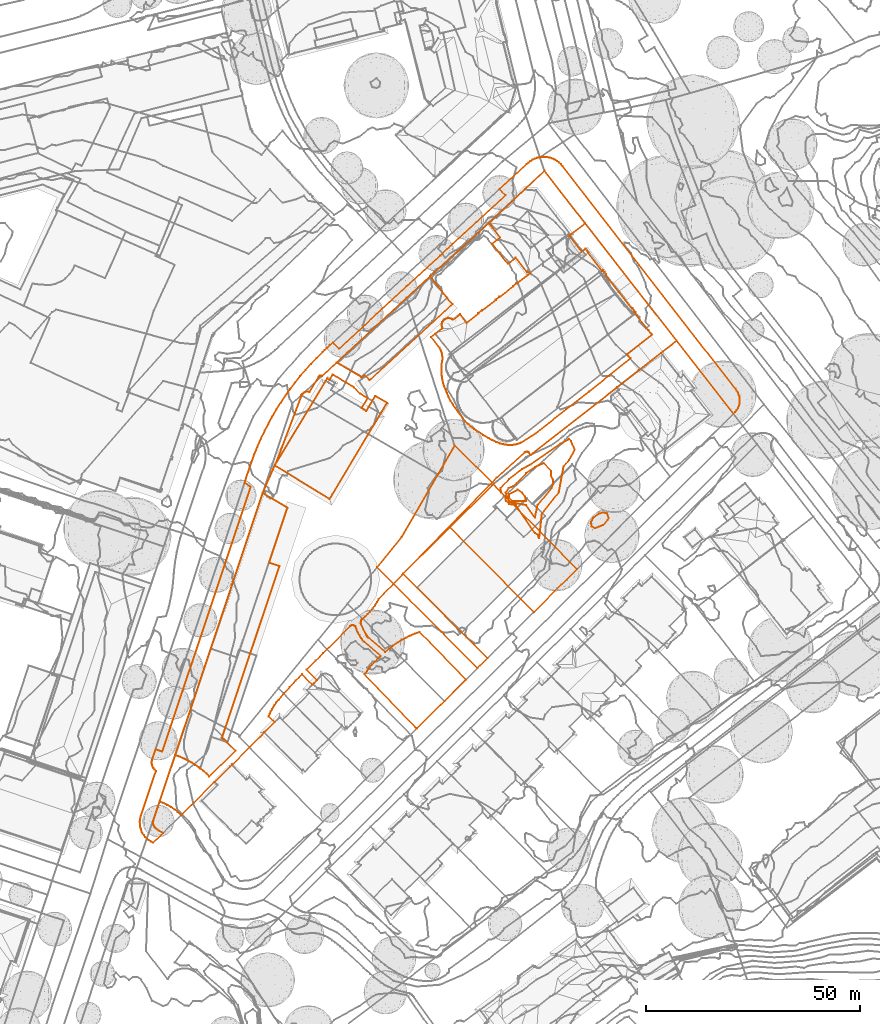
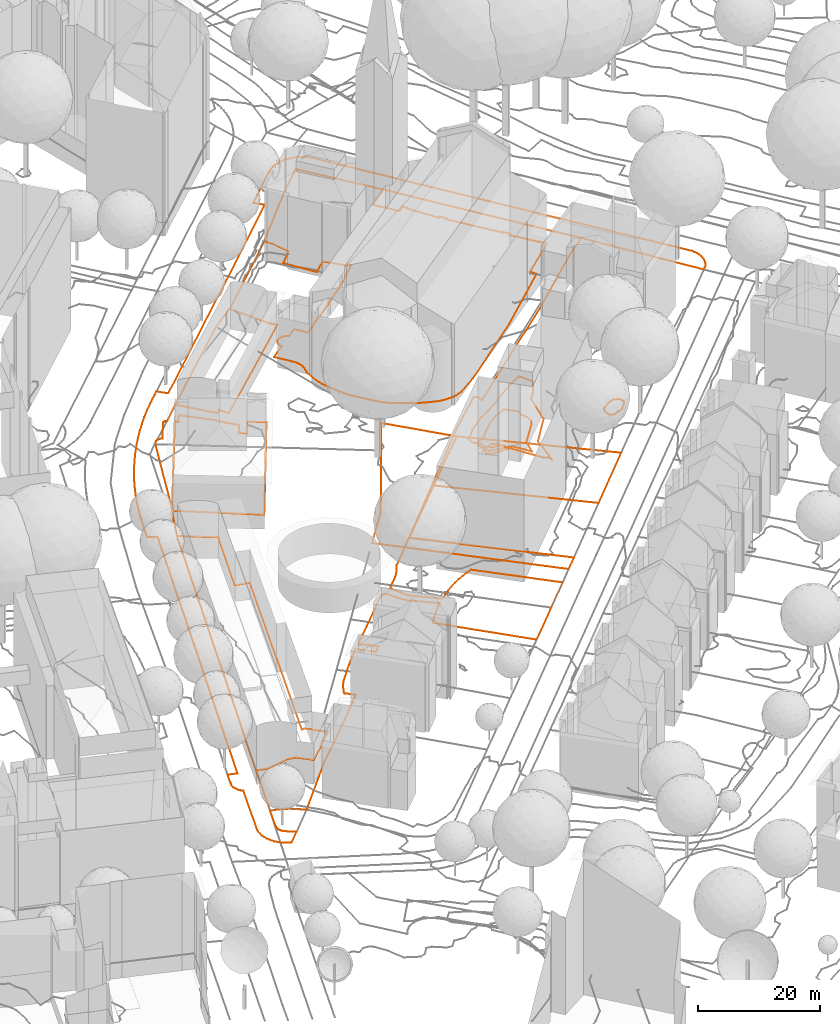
# Not in any storey, part 103 of 494: 8 proxies.
"""IFC2X3 model written with IfcOpenShell, lengths in metres."""

import ifcopenshell
import ifcopenshell.guid

model = None  # the IFC model being written
_history = None  # IfcOwnerHistory: only IFC2X3 demands one
_inside = {}  # id of a spatial element -> (the spatial element, [elements in it])
_under = {}  # id of a project, library or spatial element -> (it, [spatial elements below it])
_declared = {}  # id of a project -> (the project, [libraries it declares])
_typed = {}  # id of a type object -> (the type object, [elements of that type])
_made_of = {}  # id of a material, layer set ... -> (it, [elements and type objects made of it])


def new_model(schema):
    """Start an empty IFC model of exactly this schema.

    Asked for "IFC4X3", IfcOpenShell would pick the latest addendum, in which some entities
    have other attributes; the version numbers below select the first issue.
    IFC2X3 requires an IfcOwnerHistory on every rooted entity: one is made here for all.
    """
    global model, _history
    if schema == "IFC4X3":
        model = ifcopenshell.file(schema_version=(4, 3, 0, 0))
    else:
        model = ifcopenshell.file(schema=schema)
    _inside.clear()
    _under.clear()
    _declared.clear()
    _typed.clear()
    _made_of.clear()
    _history = None
    if model.schema == "IFC2X3":
        org = make("IfcOrganization", Name="unknown")
        user = make(
            "IfcPersonAndOrganization",
            ThePerson=make("IfcPerson", FamilyName="unknown"),
            TheOrganization=org,
        )
        app = make(
            "IfcApplication",
            ApplicationDeveloper=org,
            Version="unknown",
            ApplicationFullName="unknown",
            ApplicationIdentifier="unknown",
        )
        _history = make(
            "IfcOwnerHistory",
            OwningUser=user,
            OwningApplication=app,
            ChangeAction="ADDED",
            CreationDate=0,
        )
    return model


def make(cls, **values):
    """One entity of the class cls with the attributes given. An attribute that is None is left unset."""
    return model.create_entity(
        cls, **{name: value for name, value in values.items() if value is not None}
    )


def entity(cls, *values):
    """Any entity or typed value of the class cls, its attributes in the order of the schema. None: left unset."""
    e = model.create_entity(cls)
    for i, value in enumerate(values):
        if value is not None:
            e[i] = value
    return e


def rooted(cls, **values):
    """An entity with a GlobalId (a new one), such as an element, a storey or a relation."""
    return make(cls, GlobalId=ifcopenshell.guid.new(), OwnerHistory=_history, **values)


def si_unit(unit_type, name, prefix=None):
    """IfcSIUnit, for example si_unit("LENGTHUNIT", "METRE", prefix="MILLI")."""
    return make("IfcSIUnit", UnitType=unit_type, Prefix=prefix, Name=name)


def assignment(units):
    """IfcUnitAssignment: the units of a project."""
    return None if units is None else make("IfcUnitAssignment", Units=units)


def point(xyz):
    """IfcCartesianPoint."""
    return None if xyz is None else make("IfcCartesianPoint", Coordinates=xyz)


def direction(xyz):
    """IfcDirection."""
    return None if xyz is None else make("IfcDirection", DirectionRatios=xyz)


def frame(location, z_axis=None, x_axis=None):
    """IfcAxis2Placement3D, a coordinate frame: its origin and axes. An axis left out is left unset."""
    return make(
        "IfcAxis2Placement3D",
        Location=point(location),
        Axis=direction(z_axis),
        RefDirection=direction(x_axis),
    )


def origin_with_axes():
    """The frame at (0, 0, 0) with the z axis (0, 0, 1) and the x axis (1, 0, 0) written out."""
    return frame((0.0, 0.0, 0.0), z_axis=(0.0, 0.0, 1.0), x_axis=(1.0, 0.0, 0.0))


def place(relative_to, where):
    """IfcLocalPlacement: puts the frame where relative to a parent placement (None: the world)."""
    return make(
        "IfcLocalPlacement", PlacementRelTo=relative_to, RelativePlacement=where
    )


def context(
    kind, dimensions, precision=None, world=None, true_north=None, identifier=None
):
    """IfcGeometricRepresentationContext, for example the 3D "Model" context."""
    return make(
        "IfcGeometricRepresentationContext",
        ContextIdentifier=identifier,
        ContextType=kind,
        CoordinateSpaceDimension=dimensions,
        Precision=precision,
        WorldCoordinateSystem=world,
        TrueNorth=true_north,
    )


def subcontext(parent, identifier, kind, view, scale=None):
    """IfcGeometricRepresentationSubContext, for example "Body" below "Model"."""
    return make(
        "IfcGeometricRepresentationSubContext",
        ContextIdentifier=identifier,
        ContextType=kind,
        ParentContext=parent,
        TargetScale=scale,
        TargetView=view,
    )


def project(units=None, contexts=None):
    """IfcProject with its units and contexts."""
    return rooted(
        "IfcProject",
        Name="project",
        RepresentationContexts=contexts,
        UnitsInContext=assignment(units),
    )


def shape(context_of_items, identifier, shape_type, items):
    """IfcShapeRepresentation: the items that make up one representation, for example the "Body"."""
    return make(
        "IfcShapeRepresentation",
        ContextOfItems=context_of_items,
        RepresentationIdentifier=identifier,
        RepresentationType=shape_type,
        Items=items,
    )


def made_of(thing, what):
    """Note that an element or type object is made of a material, layer set ...; save() writes the relation."""
    if what is not None:
        _made_of.setdefault(what.id(), (what, []))[1].append(thing)
    return thing


def element(
    cls,
    number,
    at=None,
    inside=None,
    cuts=None,
    type_object=None,
    material=None,
    context=None,
    identifier="Body",
    shape_type=None,
    held_by="IfcProductDefinitionShape",
    body=None,
    shapes=None,
    **own,
):
    """One element of the class cls, such as IfcWall. Its Tag is "e" and its number.

    at: its placement. inside: the storey or other place that contains it. cuts: it is an
    opening in that element (IfcRelVoidsElement). A single representation is given by context,
    identifier, shape_type and body (its items); several are given by shapes. held_by: the class
    of the entity that holds the representations. save() writes the other relations.
    """
    e = rooted(cls, Tag="e%d" % number, ObjectPlacement=at, **own)
    if body is not None:
        shapes = [shape(context, identifier, shape_type, body)]
    if shapes is not None:
        e.Representation = make(held_by, Representations=shapes)
    if inside is not None:
        _inside.setdefault(inside.id(), (inside, []))[1].append(e)
    if cuts is not None:
        rooted(
            "IfcRelVoidsElement", RelatingBuildingElement=cuts, RelatedOpeningElement=e
        )
    if type_object is not None:
        _typed.setdefault(type_object.id(), (type_object, []))[1].append(e)
    return made_of(e, material)


def aggregate(whole, parts):
    """IfcRelAggregates: a whole, such as a stair, and the parts it consists of."""
    return rooted("IfcRelAggregates", RelatingObject=whole, RelatedObjects=parts)


def save(model, path):
    """Write the relations noted so far, then the file.

    IfcRelAggregates (storeys below a building ...), IfcRelContainedInSpatialStructure (elements
    in a storey), IfcRelDefinesByType, IfcRelAssociatesMaterial and IfcRelDeclares: one each for
    every whole, place, type object, material and project.
    """
    for whole, parts in _under.values():
        aggregate(whole, parts)
    for where, things in _inside.values():
        rooted(
            "IfcRelContainedInSpatialStructure",
            RelatedElements=things,
            RelatingStructure=where,
        )
    for kind, things in _typed.values():
        rooted("IfcRelDefinesByType", RelatedObjects=things, RelatingType=kind)
    for what, things in _made_of.values():
        rooted("IfcRelAssociatesMaterial", RelatedObjects=things, RelatingMaterial=what)
    for by, libraries in _declared.values():
        rooted("IfcRelDeclares", RelatingContext=by, RelatedDefinitions=libraries)
    model.write(path)


model = new_model("IFC2X3")

# Units and contexts
model_context = context("Model", 3, precision=1e-05, world=origin_with_axes())
body_context = subcontext(model_context, "Body", "Model", "MODEL_VIEW")
ifc_project = project(units=[si_unit("AREAUNIT", "SQUARE_METRE"), si_unit("LENGTHUNIT", "METRE")], contexts=[model_context])

# Proxies
proxy_1_placement = place(None, frame((68.8427320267, 122.7727160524, 530.417360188), z_axis=(0.0, 0.0, 1.0), x_axis=(1.0, 0.0, 0.0)))
element("IfcBuildingElementProxy", 1, at=proxy_1_placement, Name="Roads Outline 4", ObjectType="NOTDEFINED", context=body_context, shape_type="GeometricCurveSet", body=[
    entity("IfcGeometricCurveSet", [entity("IfcPolyline", [entity("IfcCartesianPoint", [0.0, 0.0, 0.0]), entity("IfcCartesianPoint", [3.6230000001, 10.8430000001, 0.2039594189]), entity("IfcCartesianPoint", [3.6409999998, 10.8970000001, 0.2052957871]), entity("IfcCartesianPoint", [4.6869999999, 10.52, 0.2156433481]), entity("IfcCartesianPoint", [5.7110000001, 10.085, 0.3930215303]), entity("IfcCartesianPoint", [6.7080000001, 9.594, 0.9503190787]), entity("IfcCartesianPoint", [7.54, 9.128, 1.6115277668]), entity("IfcCartesianPoint", [8.3480000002, 8.6230000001, 2.1841172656]), entity("IfcCartesianPoint", [9.1320000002, 8.0800000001, 2.4201392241]), entity("IfcCartesianPoint", [9.3360000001, 7.9310000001, 2.4922078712]), entity("IfcCartesianPoint", [9.537, 7.7780000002, 2.4996788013]), entity("IfcCartesianPoint", [10.2710000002, 7.182, 2.4838294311]), entity("IfcCartesianPoint", [10.9739999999, 6.551, 2.4586473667]), entity("IfcCartesianPoint", [11.6469999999, 5.8870000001, 2.4271440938]), entity("IfcCartesianPoint", [17.7540000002, 11.9400000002, 2.2321040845]), entity("IfcCartesianPoint", [15.7760000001, 13.9680000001, 2.257514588]), entity("IfcCartesianPoint", [15.0260000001, 14.686, 2.2015958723]), entity("IfcCartesianPoint", [14.5690000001, 14.838, 2.1222932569]), entity("IfcCartesianPoint", [28.0430000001, 55.121, 2.2357021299]), entity("IfcCartesianPoint", [25.6439999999, 55.9230000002, 2.1241388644]), entity("IfcCartesianPoint", [29.943, 68.7750000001, 2.3648000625]), entity("IfcCartesianPoint", [24.1299999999, 72.199, 2.545686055]), entity("IfcCartesianPoint", [26.9130000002, 78.6980000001, 2.6867683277]), entity("IfcCartesianPoint", [39.7829999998, 70.8090000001, 2.1779449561]), entity("IfcCartesianPoint", [53.2119999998, 93.334, 2.3095263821]), entity("IfcCartesianPoint", [50.446, 94.952, 2.3938800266]), entity("IfcCartesianPoint", [48.3790000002, 91.4570000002, 2.8495788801]), entity("IfcCartesianPoint", [47.2859999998, 92.1000000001, 3.0311546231]), entity("IfcCartesianPoint", [48.6770000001, 94.459, 2.6329417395]), entity("IfcCartesianPoint", [46.895, 95.5120000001, 3.0506827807]), entity("IfcCartesianPoint", [45.5329999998, 96.969, 3.1933591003]), entity("IfcCartesianPoint", [40.4730000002, 99.9440000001, 4.1274934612]), entity("IfcCartesianPoint", [39.753, 98.72, 3.8634524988]), entity("IfcCartesianPoint", [39.2050000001, 99.031, 3.921604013]), entity("IfcCartesianPoint", [27.21, 79.162, 2.7407848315]), entity("IfcCartesianPoint", [33.2710000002, 95.108, 3.8324555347]), entity("IfcCartesianPoint", [33.398, 95.351, 3.8531373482]), entity("IfcCartesianPoint", [33.5699999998, 95.5650000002, 3.8629943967]), entity("IfcCartesianPoint", [33.7790000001, 95.7420000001, 3.864903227]), entity("IfcCartesianPoint", [34.0189999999, 95.875, 3.8592970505]), entity("IfcCartesianPoint", [34.2749999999, 95.9580000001, 3.856189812]), entity("IfcCartesianPoint", [34.5419999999, 95.9920000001, 3.8508530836]), entity("IfcCartesianPoint", [34.8110000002, 95.9750000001, 3.8398137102]), entity("IfcCartesianPoint", [35.071, 95.9070000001, 3.8291581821]), entity("IfcCartesianPoint", [37.1890000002, 99.398, 3.9831124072]), entity("IfcCartesianPoint", [37.304, 99.54, 3.9983426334]), entity("IfcCartesianPoint", [37.4539999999, 99.6440000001, 4.0146529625]), entity("IfcCartesianPoint", [37.6260000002, 99.7040000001, 4.0263147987]), entity("IfcCartesianPoint", [37.784, 99.716, 4.0310413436]), entity("IfcCartesianPoint", [37.9399999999, 99.689, 4.0297807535]), entity("IfcCartesianPoint", [38.0860000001, 99.6260000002, 4.0223666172]), entity("IfcCartesianPoint", [41.4330000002, 102.767, 4.1671462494]), entity("IfcCartesianPoint", [47.3500000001, 99.267, 2.5165878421]), entity("IfcCartesianPoint", [48.0270000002, 99.8900000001, 2.5204880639]), entity("IfcCartesianPoint", [49.179, 98.6400000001, 2.2856863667]), entity("IfcCartesianPoint", [68.531, 116.486, 2.2752429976]), entity("IfcCartesianPoint", [67.3790000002, 117.737, 2.3855761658]), entity("IfcCartesianPoint", [67.4300000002, 117.784, 2.3880908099]), entity("IfcCartesianPoint", [63.372, 122.9470000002, 3.3224099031]), entity("IfcCartesianPoint", [77.0490000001, 135.3540000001, 4.5182508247]), entity("IfcCartesianPoint", [77.1490000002, 135.449, 4.5851800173]), entity("IfcCartesianPoint", [77.4440000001, 135.1360000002, 4.5414929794]), entity("IfcCartesianPoint", [77.3680000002, 135.0650000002, 4.4832711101]), entity("IfcCartesianPoint", [77.969, 134.2930000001, 4.4078105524]), entity("IfcCartesianPoint", [79.73, 132.03, 3.644511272]), entity("IfcCartesianPoint", [77.8709999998, 130.5830000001, 2.8083666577]), entity("IfcCartesianPoint", [81.5270000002, 125.8860000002, 2.5582329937]), entity("IfcCartesianPoint", [83.3810000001, 127.3290000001, 3.2013033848]), entity("IfcCartesianPoint", [86.0469999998, 123.9040000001, 3.4864772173]), entity("IfcCartesianPoint", [86.3020000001, 124.1030000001, 3.5609178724]), entity("IfcCartesianPoint", [86.6690000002, 123.6310000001, 3.5303301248]), entity("IfcCartesianPoint", [83.622, 121.2620000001, 2.5717359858]), entity("IfcCartesianPoint", [83.5610000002, 121.341, 2.5662295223]), entity("IfcCartesianPoint", [82.7000000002, 120.6700000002, 2.3848896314]), entity("IfcCartesianPoint", [82.7609999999, 120.591, 2.3909373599]), entity("IfcCartesianPoint", [79.5640000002, 118.105, 2.3032011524]), entity("IfcCartesianPoint", [79.503, 118.1840000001, 2.297669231]), entity("IfcCartesianPoint", [78.642, 117.514, 2.2574503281]), entity("IfcCartesianPoint", [78.7030000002, 117.4350000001, 2.2634815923]), entity("IfcCartesianPoint", [75.5070000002, 114.95, 2.229922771]), entity("IfcCartesianPoint", [75.446, 115.0290000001, 2.2251744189]), entity("IfcCartesianPoint", [74.577, 114.3530000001, 2.220631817]), entity("IfcCartesianPoint", [74.6379999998, 114.274, 2.2252215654]), entity("IfcCartesianPoint", [71.9100000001, 112.051, 2.2516929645]), entity("IfcCartesianPoint", [70.3399999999, 114.061, 2.2408872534]), entity("IfcCartesianPoint", [68.6970000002, 112.7790000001, 2.2519545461]), entity("IfcCartesianPoint", [68.4279999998, 112.9650000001, 2.247821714]), entity("IfcCartesianPoint", [68.128, 113.0920000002, 2.2459529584]), entity("IfcCartesianPoint", [67.8080000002, 113.1570000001, 2.2447124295]), entity("IfcCartesianPoint", [67.4819999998, 113.156, 2.2437820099]), entity("IfcCartesianPoint", [67.162, 113.0900000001, 2.2433793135]), entity("IfcCartesianPoint", [66.8629999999, 112.9610000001, 2.2432723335]), entity("IfcCartesianPoint", [66.5950000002, 112.774, 2.2468598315]), entity("IfcCartesianPoint", [66.3530000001, 112.514, 2.2542314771]), entity("IfcCartesianPoint", [66.1740000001, 112.2080000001, 2.2626755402]), entity("IfcCartesianPoint", [66.0660000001, 111.8700000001, 2.2717951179]), entity("IfcCartesianPoint", [66.0350000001, 111.5160000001, 2.2834568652]), entity("IfcCartesianPoint", [66.0819999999, 111.1640000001, 2.2954068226]), entity("IfcCartesianPoint", [66.2050000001, 110.831, 2.3054307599]), entity("IfcCartesianPoint", [64.5780000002, 109.564, 2.3365796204]), entity("IfcCartesianPoint", [63.5759999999, 108.7820000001, 2.2705134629]), entity("IfcCartesianPoint", [65.5060000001, 106.3050000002, 2.2633563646]), entity("IfcCartesianPoint", [65.747, 105.868, 2.293709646]), entity("IfcCartesianPoint", [65.9410000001, 105.4070000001, 2.3399620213]), entity("IfcCartesianPoint", [66.085, 104.929, 2.396206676]), entity("IfcCartesianPoint", [66.1779999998, 104.4380000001, 2.4118021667]), entity("IfcCartesianPoint", [66.21, 103.9380000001, 2.41026646]), entity("IfcCartesianPoint", [66.193, 103.4370000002, 2.3909792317]), entity("IfcCartesianPoint", [66.128, 102.9400000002, 2.3653557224]), entity("IfcCartesianPoint", [66.0150000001, 102.452, 2.3438910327]), entity("IfcCartesianPoint", [65.9930000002, 101.4480000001, 2.3590387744]), entity("IfcCartesianPoint", [66.0120000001, 100.443, 2.4160613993]), entity("IfcCartesianPoint", [66.0720000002, 99.4400000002, 2.4510820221]), entity("IfcCartesianPoint", [66.2069999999, 98.696, 2.4547194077]), entity("IfcCartesianPoint", [66.3900000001, 97.9610000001, 2.4801277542]), entity("IfcCartesianPoint", [66.6189999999, 97.24, 2.5244054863]), entity("IfcCartesianPoint", [66.8930000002, 96.5350000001, 2.5513765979]), entity("IfcCartesianPoint", [67.2659999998, 95.602, 2.5516251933]), entity("IfcCartesianPoint", [67.6880000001, 94.6900000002, 2.5361533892]), entity("IfcCartesianPoint", [68.1570000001, 93.801, 2.5297555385]), entity("IfcCartesianPoint", [68.6719999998, 92.9400000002, 2.5340728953]), entity("IfcCartesianPoint", [69.2310000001, 92.108, 2.5551606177]), entity("IfcCartesianPoint", [69.8339999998, 91.3060000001, 2.5855787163]), entity("IfcCartesianPoint", [70.906, 89.8870000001, 2.6185096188]), entity("IfcCartesianPoint", [72.0359999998, 88.513, 2.6384057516]), entity("IfcCartesianPoint", [72.781, 87.8430000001, 2.6445316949]), entity("IfcCartesianPoint", [73.5729999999, 87.23, 2.6875213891]), entity("IfcCartesianPoint", [74.4079999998, 86.6770000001, 2.7115894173]), entity("IfcCartesianPoint", [75.6639999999, 85.844, 2.7589244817]), entity("IfcCartesianPoint", [76.9589999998, 85.074, 2.8046147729]), entity("IfcCartesianPoint", [77.8530000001, 84.6230000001, 2.8415480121]), entity("IfcCartesianPoint", [78.7659999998, 84.2150000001, 2.8855007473]), entity("IfcCartesianPoint", [79.6979999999, 83.8500000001, 2.8922088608]), entity("IfcCartesianPoint", [80.2770000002, 83.6770000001, 2.9178944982]), entity("IfcCartesianPoint", [80.8680000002, 83.5560000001, 2.9342630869]), entity("IfcCartesianPoint", [81.4679999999, 83.487, 2.9498695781]), entity("IfcCartesianPoint", [82.0720000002, 83.4720000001, 2.9691295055]), entity("IfcCartesianPoint", [82.6749999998, 83.51, 2.9805465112]), entity("IfcCartesianPoint", [83.3369999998, 83.6140000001, 2.9830544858]), entity("IfcCartesianPoint", [83.9849999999, 83.7820000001, 2.9996352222]), entity("IfcCartesianPoint", [84.6140000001, 84.013, 3.0181797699]), entity("IfcCartesianPoint", [87.9819999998, 86.193, 3.1025944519]), entity("IfcCartesianPoint", [100.5100000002, 95.9880000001, 3.7077755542]), entity("IfcCartesianPoint", [110.2209999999, 103.773, 5.6024013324]), entity("IfcCartesianPoint", [109.4750000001, 104.7750000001, 5.6416496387]), entity("IfcCartesianPoint", [115.2850000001, 109.314, 6.4988125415]), entity("IfcCartesianPoint", [114.4500000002, 110.388, 6.544154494]), entity("IfcCartesianPoint", [114.3760000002, 110.331, 6.5473943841]), entity("IfcCartesianPoint", [111.1869999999, 114.4310000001, 6.5719991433]), entity("IfcCartesianPoint", [111.4240000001, 114.615, 6.6007817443]), entity("IfcCartesianPoint", [110.7080000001, 115.523, 6.6308025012]), entity("IfcCartesianPoint", [110.551, 115.4010000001, 6.6155188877]), entity("IfcCartesianPoint", [104.3790000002, 123.338, 6.6868838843]), entity("IfcCartesianPoint", [104.5290000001, 123.3490000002, 6.7035882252]), entity("IfcCartesianPoint", [104.5449999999, 123.4670000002, 6.7230542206]), entity("IfcCartesianPoint", [103.8289999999, 124.3810000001, 6.7518379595]), entity("IfcCartesianPoint", [103.5920000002, 124.1970000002, 6.7005723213]), entity("IfcCartesianPoint", [100.2799999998, 128.456, 7.0402415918]), entity("IfcCartesianPoint", [100.3650000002, 128.5220000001, 7.0596980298]), entity("IfcCartesianPoint", [99.6570000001, 129.4370000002, 7.1439388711]), entity("IfcCartesianPoint", [98.807, 128.7750000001, 6.9414479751]), entity("IfcCartesianPoint", [95.9270000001, 132.487, 6.935142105]), entity("IfcCartesianPoint", [96.2319999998, 132.7240000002, 7.026119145]), entity("IfcCartesianPoint", [99.6320000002, 135.375, 6.9090434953]), entity("IfcCartesianPoint", [121.0359999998, 107.885, 6.4399454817]), entity("IfcCartesianPoint", [117.3990000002, 105.0430000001, 6.4536077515]), entity("IfcCartesianPoint", [112.264, 101.03, 5.4675513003]), entity("IfcCartesianPoint", [107.1239999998, 97.014, 4.2830827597]), entity("IfcCartesianPoint", [86.861, 81.1780000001, 2.2865070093]), entity("IfcCartesianPoint", [86.4360000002, 81.723, 2.6604406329]), entity("IfcCartesianPoint", [86.2719999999, 81.8230000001, 2.7312770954]), entity("IfcCartesianPoint", [86.0890000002, 81.8830000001, 2.7560219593]), entity("IfcCartesianPoint", [85.898, 81.9000000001, 2.7588563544]), entity("IfcCartesianPoint", [85.716, 81.875, 2.747341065]), entity("IfcCartesianPoint", [85.5440000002, 81.811, 2.7269223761]), entity("IfcCartesianPoint", [85.389, 81.7120000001, 2.7032367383]), entity("IfcCartesianPoint", [78.9219999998, 75.801, 2.5473552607]), entity("IfcCartesianPoint", [57.0410000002, 53.389, 2.0974239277]), entity("IfcCartesianPoint", [51.2749999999, 47.4040000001, 2.3144745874]), entity("IfcCartesianPoint", [50.8659999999, 46.6940000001, 2.3243829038]), entity("IfcCartesianPoint", [50.3900000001, 45.9350000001, 2.3292183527]), entity("IfcCartesianPoint", [49.8659999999, 45.2080000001, 2.3404952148]), entity("IfcCartesianPoint", [49.2960000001, 44.5160000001, 2.3798920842]), entity("IfcCartesianPoint", [48.7149999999, 43.8940000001, 2.3965198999]), entity("IfcCartesianPoint", [48.0970000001, 43.3090000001, 2.3654901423]), entity("IfcCartesianPoint", [47.4449999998, 42.763, 2.3197651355]), entity("IfcCartesianPoint", [47.3250000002, 42.594, 2.3241768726]), entity("IfcCartesianPoint", [47.2239999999, 42.412, 2.3369843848]), entity("IfcCartesianPoint", [47.1400000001, 42.1970000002, 2.3529697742]), entity("IfcCartesianPoint", [47.085, 41.973, 2.3708844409]), entity("IfcCartesianPoint", [47.1009999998, 41.784, 2.3747252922]), entity("IfcCartesianPoint", [47.1570000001, 41.6030000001, 2.371261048]), entity("IfcCartesianPoint", [48.335, 39.0700000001, 2.4413075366]), entity("IfcCartesianPoint", [48.4509999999, 38.8940000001, 2.4439484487]), entity("IfcCartesianPoint", [48.5810000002, 38.7280000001, 2.4480870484]), entity("IfcCartesianPoint", [48.716, 38.5830000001, 2.4539056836]), entity("IfcCartesianPoint", [48.8599999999, 38.4470000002, 2.4614539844]), entity("IfcCartesianPoint", [52.7949999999, 35.057, 2.5409170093]), entity("IfcCartesianPoint", [53.7319999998, 35.845, 2.5822583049]), entity("IfcCartesianPoint", [54.7089999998, 36.5820000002, 2.6124928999]), entity("IfcCartesianPoint", [55.7230000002, 37.2680000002, 2.6475898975]), entity("IfcCartesianPoint", [56.7719999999, 37.899, 2.6417435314]), entity("IfcCartesianPoint", [57.764, 38.433, 2.6563880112]), entity("IfcCartesianPoint", [58.781, 38.919, 2.6772384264]), entity("IfcCartesianPoint", [59.8199999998, 39.3560000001, 2.6747089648]), entity("IfcCartesianPoint", [60.8790000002, 39.7420000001, 2.6624354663]), entity("IfcCartesianPoint", [71.747, 28.6340000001, 3.0613976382]), entity("IfcCartesianPoint", [66.6770000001, 23.595, 2.8597423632]), entity("IfcCartesianPoint", [60.287, 17.237, 2.6534765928]), entity("IfcCartesianPoint", [60.199, 17.149, 2.651679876]), entity("IfcCartesianPoint", [47.9390000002, 29.8150000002, 2.6057415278]), entity("IfcCartesianPoint", [48.517, 30.6140000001, 2.619009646]), entity("IfcCartesianPoint", [49.1269999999, 31.388, 2.5857664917]), entity("IfcCartesianPoint", [49.7689999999, 32.1360000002, 2.552026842]), entity("IfcCartesianPoint", [50.4040000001, 32.8220000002, 2.5536527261]), entity("IfcCartesianPoint", [51.0660000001, 33.483, 2.57782409]), entity("IfcCartesianPoint", [51.7540000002, 34.1170000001, 2.5845467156]), entity("IfcCartesianPoint", [47.7859999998, 37.514, 2.4543024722]), entity("IfcCartesianPoint", [47.4589999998, 37.9200000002, 2.4278066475]), entity("IfcCartesianPoint", [47.1540000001, 38.3430000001, 2.4239169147]), entity("IfcCartesianPoint", [46.764, 38.9620000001, 2.4073878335]), entity("IfcCartesianPoint", [46.4190000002, 39.6090000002, 2.3777771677]), entity("IfcCartesianPoint", [46.122, 40.2780000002, 2.3462272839]), entity("IfcCartesianPoint", [45.875, 40.9670000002, 2.3160286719]), entity("IfcCartesianPoint", [45.7060000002, 41.1340000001, 2.3183877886]), entity("IfcCartesianPoint", [45.497, 41.247, 2.3194080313]), entity("IfcCartesianPoint", [45.2650000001, 41.2990000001, 2.3208881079]), entity("IfcCartesianPoint", [45.0270000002, 41.2820000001, 2.3259777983]), entity("IfcCartesianPoint", [44.804, 41.2, 2.3354696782]), entity("IfcCartesianPoint", [44.6120000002, 41.0590000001, 2.3490075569]), entity("IfcCartesianPoint", [38.284, 34.7520000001, 2.2874193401]), entity("IfcCartesianPoint", [36.5320000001, 32.996, 2.3612556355]), entity("IfcCartesianPoint", [34.452, 30.929, 2.41503838]), entity("IfcCartesianPoint", [36.8850000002, 28.487, 2.6246972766]), entity("IfcCartesianPoint", [35.7590000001, 27.372, 2.5799582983]), entity("IfcCartesianPoint", [33.3560000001, 29.8500000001, 2.4179093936]), entity("IfcCartesianPoint", [31.855, 28.327, 2.4015153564]), entity("IfcCartesianPoint", [30.4789999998, 26.8630000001, 2.3967225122]), entity("IfcCartesianPoint", [29.1379999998, 25.3670000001, 2.3809344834]), entity("IfcCartesianPoint", [27.8330000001, 23.8390000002, 2.3390858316]), entity("IfcCartesianPoint", [27.2880000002, 23.1730000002, 2.3216317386]), entity("IfcCartesianPoint", [26.7919999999, 22.469, 2.3372706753]), entity("IfcCartesianPoint", [26.3480000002, 21.7320000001, 2.3742560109]), entity("IfcCartesianPoint", [26.0449999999, 21.149, 2.3440580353]), entity("IfcCartesianPoint", [25.7749999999, 20.551, 2.325213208]), entity("IfcCartesianPoint", [25.5380000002, 19.9380000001, 2.3799337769]), entity("IfcCartesianPoint", [26.898, 18.594, 2.414168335]), entity("IfcCartesianPoint", [24.5240000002, 16.243, 2.333287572]), entity("IfcCartesianPoint", [23.665, 15.294, 2.3367632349]), entity("IfcCartesianPoint", [16.9330000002, 8.632, 2.2408077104]), entity("IfcCartesianPoint", [12.906, 4.6470000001, 2.3568487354]), entity("IfcCartesianPoint", [5.0430000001, -3.1369999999, 0.292537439]), entity("IfcCartesianPoint", [4.9959999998, -3.0889999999, 0.2913109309]), entity("IfcCartesianPoint", [4.2710000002, -2.4179999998, 0.2481925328]), entity("IfcCartesianPoint", [3.497, -1.8059999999, 0.2353568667]), entity("IfcCartesianPoint", [2.6770000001, -1.254, 0.2001960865]), entity("IfcCartesianPoint", [1.818, -0.7679999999, 0.1222256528]), entity("IfcCartesianPoint", [0.9240000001, -0.3489999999, 0.0630957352]), entity("IfcCartesianPoint", [0.0, 0.0, 0.0])])]),
])
proxy_2_placement = place(None, frame((64.2277320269, 118.1297160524, 530.28836828), z_axis=(0.0, 0.0, 1.0), x_axis=(1.0, 0.0, 0.0)))
element("IfcBuildingElementProxy", 2, at=proxy_2_placement, Name="Roads Outline 6", ObjectType="NOTDEFINED", context=body_context, shape_type="GeometricCurveSet", body=[
    entity("IfcGeometricCurveSet", [entity("IfcPolyline", [entity("IfcCartesianPoint", [0.173, 1.1769999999, 0.0042277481]), entity("IfcCartesianPoint", [3.7479999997, 11.8640000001, 0.0503527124]), entity("IfcCartesianPoint", [3.4479999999, 12.1440000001, 0.0393051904]), entity("IfcCartesianPoint", [3.1969999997, 12.47, 0.0323376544]), entity("IfcCartesianPoint", [3.0019999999, 12.831, 0.0445833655]), entity("IfcCartesianPoint", [2.8679999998, 13.219, 0.0682204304]), entity("IfcCartesianPoint", [2.7999999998, 13.605, 0.0901844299]), entity("IfcCartesianPoint", [2.7919999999, 13.997, 0.1060636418]), entity("IfcCartesianPoint", [2.8439999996, 14.3859999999, 0.1234430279]), entity("IfcCartesianPoint", [2.9559999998, 14.7620000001, 0.1538646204]), entity("IfcCartesianPoint", [3.6629999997, 16.8810000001, 0.2228606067]), entity("IfcCartesianPoint", [5.247, 16.3640000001, 0.2417633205]), entity("IfcCartesianPoint", [25.9669999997, 78.3389999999, 2.5677302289]), entity("IfcCartesianPoint", [24.4729999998, 79.227, 2.4997032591]), entity("IfcCartesianPoint", [25.4169999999, 82.0549999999, 2.6888387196]), entity("IfcCartesianPoint", [26.0579999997, 83.9709999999, 2.7931418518]), entity("IfcCartesianPoint", [26.7569999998, 85.8670000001, 2.8703435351]), entity("IfcCartesianPoint", [27.5129999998, 87.74, 2.9801013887]), entity("IfcCartesianPoint", [28.3269999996, 89.5889999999, 3.1022763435]), entity("IfcCartesianPoint", [29.196, 91.4129999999, 3.2104745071]), entity("IfcCartesianPoint", [30.0779999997, 93.1270000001, 3.3061413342]), entity("IfcCartesianPoint", [31.0089999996, 94.8149999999, 3.4184568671]), entity("IfcCartesianPoint", [31.9879999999, 96.476, 3.5112335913]), entity("IfcCartesianPoint", [33.014, 98.108, 3.6156854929]), entity("IfcCartesianPoint", [34.0719999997, 99.6880000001, 3.693663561]), entity("IfcCartesianPoint", [35.1749999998, 101.237, 3.7871379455]), entity("IfcCartesianPoint", [36.321, 102.754, 3.8625529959]), entity("IfcCartesianPoint", [37.5099999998, 104.2379999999, 3.9467925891]), entity("IfcCartesianPoint", [38.7509999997, 105.6950000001, 4.0274813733]), entity("IfcCartesianPoint", [40.0349999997, 107.1159999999, 4.1188305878]), entity("IfcCartesianPoint", [41.3589999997, 108.4979999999, 4.183967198]), entity("IfcCartesianPoint", [42.7239999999, 109.841, 4.2597486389]), entity("IfcCartesianPoint", [43.2049999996, 110.304, 4.2890613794]), entity("IfcCartesianPoint", [43.6969999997, 110.754, 4.306302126]), entity("IfcCartesianPoint", [44.4499999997, 111.4509999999, 4.3595263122]), entity("IfcCartesianPoint", [45.2059999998, 112.1429999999, 4.3689066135]), entity("IfcCartesianPoint", [46.5889999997, 110.645, 4.4353122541]), entity("IfcCartesianPoint", [62.4709999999, 125.2860000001, 5.2806220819]), entity("IfcCartesianPoint", [70.2169999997, 132.416, 5.6839279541]), entity("IfcCartesianPoint", [85.5569999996, 146.5630000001, 6.6177543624]), entity("IfcCartesianPoint", [84.2089999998, 148.0560000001, 6.5547705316]), entity("IfcCartesianPoint", [90.5069999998, 153.8540000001, 6.8658187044]), entity("IfcCartesianPoint", [90.9449999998, 154.2560000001, 6.8705773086]), entity("IfcCartesianPoint", [91.4219999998, 154.6089999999, 6.896677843]), entity("IfcCartesianPoint", [91.9339999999, 154.909, 6.9331649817]), entity("IfcCartesianPoint", [92.4749999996, 155.1540000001, 6.9580935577]), entity("IfcCartesianPoint", [93.0389999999, 155.3400000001, 6.9781860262]), entity("IfcCartesianPoint", [93.6199999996, 155.4650000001, 7.0005438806]), entity("IfcCartesianPoint", [94.2199999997, 155.5290000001, 7.0163778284]), entity("IfcCartesianPoint", [94.8239999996, 155.527, 7.0214423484]), entity("IfcCartesianPoint", [95.4189999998, 155.4609999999, 7.045519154]), entity("IfcCartesianPoint", [96.0039999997, 155.3330000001, 7.0675414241]), entity("IfcCartesianPoint", [96.5719999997, 155.1429999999, 7.06838431]), entity("IfcCartesianPoint", [97.1159999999, 154.8929999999, 7.0680739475]), entity("IfcCartesianPoint", [97.6309999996, 154.5870000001, 7.0588042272]), entity("IfcCartesianPoint", [98.1099999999, 154.227, 7.051430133]), entity("IfcCartesianPoint", [98.548, 153.8189999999, 7.0383859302]), entity("IfcCartesianPoint", [98.9399999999, 153.3659999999, 7.0200014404]), entity("IfcCartesianPoint", [139.3769999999, 101.2860000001, 6.1996970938]), entity("IfcCartesianPoint", [139.7019999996, 100.8740000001, 6.1931573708]), entity("IfcCartesianPoint", [139.9709999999, 100.4239999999, 6.1631598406]), entity("IfcCartesianPoint", [140.1779999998, 99.942, 6.1389504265]), entity("IfcCartesianPoint", [140.321, 99.4369999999, 6.1298692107]), entity("IfcCartesianPoint", [140.3959999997, 98.9180000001, 6.1227894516]), entity("IfcCartesianPoint", [140.4029999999, 98.3929999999, 6.1013148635]), entity("IfcCartesianPoint", [140.335, 97.838, 6.0539924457]), entity("IfcCartesianPoint", [140.1899999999, 97.298, 6.0154147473]), entity("IfcCartesianPoint", [139.9709999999, 96.7830000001, 5.9884527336]), entity("IfcCartesianPoint", [139.6829999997, 96.304, 5.9849334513]), entity("IfcCartesianPoint", [139.3299999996, 95.8689999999, 5.9872886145]), entity("IfcCartesianPoint", [138.9209999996, 95.4879999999, 5.9804427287]), entity("IfcCartesianPoint", [125.6509999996, 112.5279999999, 6.5689373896]), entity("IfcCartesianPoint", [104.247, 140.0179999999, 7.0380354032]), entity("IfcCartesianPoint", [94.6709999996, 152.3189999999, 7.0534851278]), entity("IfcCartesianPoint", [90.1599999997, 148.013, 6.9128710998]), entity("IfcCartesianPoint", [81.764, 140.0919999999, 4.7141719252]), entity("IfcCartesianPoint", [81.6639999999, 139.997, 4.6472427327]), entity("IfcCartesianPoint", [67.9869999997, 127.5900000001, 3.4514018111]), entity("IfcCartesianPoint", [67.9499999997, 127.638, 3.5307255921]), entity("IfcCartesianPoint", [67.9309999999, 127.621, 3.5365298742]), entity("IfcCartesianPoint", [62.4619999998, 122.571, 4.869550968]), entity("IfcCartesianPoint", [46.0969999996, 107.4550000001, 4.2976952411]), entity("IfcCartesianPoint", [46.048, 107.4099999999, 4.2961381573]), entity("IfcCartesianPoint", [42.7009999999, 104.2690000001, 4.1513585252]), entity("IfcCartesianPoint", [42.5549999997, 104.3319999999, 4.1587726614]), entity("IfcCartesianPoint", [42.3989999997, 104.3589999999, 4.1600332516]), entity("IfcCartesianPoint", [42.2409999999, 104.3470000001, 4.1553067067]), entity("IfcCartesianPoint", [42.0689999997, 104.287, 4.1436448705]), entity("IfcCartesianPoint", [41.9189999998, 104.183, 4.1273345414]), entity("IfcCartesianPoint", [41.804, 104.041, 4.1121043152]), entity("IfcCartesianPoint", [39.6859999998, 100.55, 3.9581500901]), entity("IfcCartesianPoint", [39.426, 100.618, 3.9688056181]), entity("IfcCartesianPoint", [39.1569999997, 100.635, 3.9798449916]), entity("IfcCartesianPoint", [38.8899999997, 100.601, 3.98518172]), entity("IfcCartesianPoint", [38.6339999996, 100.5179999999, 3.9882889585]), entity("IfcCartesianPoint", [38.3939999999, 100.385, 3.993895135]), entity("IfcCartesianPoint", [38.1849999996, 100.2080000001, 3.9919863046]), entity("IfcCartesianPoint", [38.0129999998, 99.9939999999, 3.9821292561]), entity("IfcCartesianPoint", [37.8859999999, 99.7509999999, 3.9614474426]), entity("IfcCartesianPoint", [31.8249999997, 83.8049999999, 2.8697767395]), entity("IfcCartesianPoint", [31.5279999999, 83.341, 2.8157602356]), entity("IfcCartesianPoint", [28.7449999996, 76.8419999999, 2.6746779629]), entity("IfcCartesianPoint", [11.8309999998, 26.2350000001, 0.7721775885]), entity("IfcCartesianPoint", [8.2559999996, 15.54, 0.3342876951]), entity("IfcCartesianPoint", [8.2379999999, 15.486, 0.3329513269]), entity("IfcCartesianPoint", [4.6149999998, 4.6429999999, 0.1289919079]), entity("IfcCartesianPoint", [3.2239999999, 0.4410000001, 0.1030233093]), entity("IfcCartesianPoint", [3.1359999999, 0.132, 0.0853487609]), entity("IfcCartesianPoint", [3.1059999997, -0.1880000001, 0.0746146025]), entity("IfcCartesianPoint", [3.1349999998, -0.5079999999, 0.071950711]), entity("IfcCartesianPoint", [3.227, -0.831, 0.0868883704]), entity("IfcCartesianPoint", [3.3779999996, -1.1300000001, 0.1041397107]), entity("IfcCartesianPoint", [3.5829999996, -1.395, 0.1222025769]), entity("IfcCartesianPoint", [3.8279999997, -1.675, 0.1424340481]), entity("IfcCartesianPoint", [4.1089999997, -1.919, 0.1563469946]), entity("IfcCartesianPoint", [4.4199999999, -2.1229999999, 0.161495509]), entity("IfcCartesianPoint", [5.3949999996, -2.7050000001, 0.189369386]), entity("IfcCartesianPoint", [3.1239999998, -4.9480000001, 0.1305799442]), entity("IfcCartesianPoint", [2.5919999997, -4.6769999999, 0.1058649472]), entity("IfcCartesianPoint", [2.0939999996, -4.348, 0.090820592]), entity("IfcCartesianPoint", [1.6359999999, -3.9650000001, 0.0649624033]), entity("IfcCartesianPoint", [1.284, -3.598, 0.0450009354]), entity("IfcCartesianPoint", [0.9689999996, -3.199, 0.0312997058]), entity("IfcCartesianPoint", [0.6939999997, -2.7709999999, 0.0198291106]), entity("IfcCartesianPoint", [0.4619999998, -2.3189999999, 0.0102037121]), entity("IfcCartesianPoint", [0.2479999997, -1.763, -0.0018014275]), entity("IfcCartesianPoint", [0.0979999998, -1.186, -0.0101554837]), entity("IfcCartesianPoint", [0.0149999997, -0.5959999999, -0.0106908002]), entity("IfcCartesianPoint", [0.0, 0.0, 0.0]), entity("IfcCartesianPoint", [0.0529999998, 0.5929999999, 0.0133017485]), entity("IfcCartesianPoint", [0.173, 1.1769999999, 0.0042277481])])]),
])
proxy_3_placement = place(None, frame((119.8047320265, 177.7207160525, 532.6434110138), z_axis=(0.0, 0.0, 1.0), x_axis=(1.0, 0.0, 0.0)))
element("IfcBuildingElementProxy", 3, at=proxy_3_placement, Name="Cadastre 94", ObjectType="NOTDEFINED", context=body_context, shape_type="GeometricCurveSet", body=[
    entity("IfcGeometricCurveSet", [entity("IfcPolyline", [entity("IfcCartesianPoint", [0.0, 0.0, 0.0]), entity("IfcCartesianPoint", [5.6900000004, 6.9920000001, -0.0134697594]), entity("IfcCartesianPoint", [14.1700000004, 21.5959999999, 0.4113025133]), entity("IfcCartesianPoint", [18.0980000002, 28.3570000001, 0.4221156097]), entity("IfcCartesianPoint", [27.1680000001, 19.4069999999, 0.001807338]), entity("IfcCartesianPoint", [16.9980000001, 9.294, -0.1042067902]), entity("IfcCartesianPoint", [6.0790000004, -1.5590000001, -0.1286268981]), entity("IfcCartesianPoint", [25.764, -21.3700000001, 1.0510448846]), entity("IfcCartesianPoint", [23.4140000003, -23.7, 0.9938049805]), entity("IfcCartesianPoint", [0.0, 0.0, 0.0])])]),
])
proxy_4_placement = place(None, frame((136.8027320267, 187.0147160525, 532.5392042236), z_axis=(0.0, 0.0, 1.0), x_axis=(1.0, 0.0, 0.0)))
element("IfcBuildingElementProxy", 4, at=proxy_4_placement, Name="Cadastre 107", ObjectType="NOTDEFINED", context=body_context, shape_type="GeometricCurveSet", body=[
    entity("IfcGeometricCurveSet", [entity("IfcPolyline", [entity("IfcCartesianPoint", [0.0, 0.0, 0.0]), entity("IfcCartesianPoint", [10.1699999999, 10.1129999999, 0.1060141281]), entity("IfcCartesianPoint", [29.7349999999, -9.807, 2.0874155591]), entity("IfcCartesianPoint", [19.676, -19.8100000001, 1.6469561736]), entity("IfcCartesianPoint", [0.0, 0.0, 0.0])])]),
])
proxy_5_placement = place(None, frame((150.6777320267, 193.8453669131, 530.0), z_axis=(0.0, 0.0, 1.0), x_axis=(1.0, 0.0, 0.0)))
element("IfcBuildingElementProxy", 5, at=proxy_5_placement, Name="Contour Line 530.0 m", ObjectType="NOTDEFINED", context=body_context, shape_type="GeometricCurveSet", body=[
    entity("IfcGeometricCurveSet", [entity("IfcPolyline", [entity("IfcCartesianPoint", [4.0, -0.6944812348, 0.0]), entity("IfcCartesianPoint", [3.74428997, 0.3253491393, 0.0]), entity("IfcCartesianPoint", [3.0, 1.2529481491, 0.0]), entity("IfcCartesianPoint", [2.0, 1.9200924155, 0.0]), entity("IfcCartesianPoint", [0.0, 0.9116821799, 0.0]), entity("IfcCartesianPoint", [0.0, 0.0, 0.0]), entity("IfcCartesianPoint", [0.6790617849, -0.6746508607, 0.0]), entity("IfcCartesianPoint", [4.0, -0.6944812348, 0.0])])]),
])
proxy_6_placement = place(None, frame((149.8583799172, 195.1707160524, 531.0), z_axis=(0.0, 0.0, 1.0), x_axis=(1.0, 0.0, 0.0)))
element("IfcBuildingElementProxy", 6, at=proxy_6_placement, Name="Contour Line 531.0 m", ObjectType="NOTDEFINED", context=body_context, shape_type="GeometricCurveSet", body=[
    entity("IfcGeometricCurveSet", [entity("IfcPolyline", [entity("IfcCartesianPoint", [6.8193521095, -5.8771532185, 0.0]), entity("IfcCartesianPoint", [7.4455846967, -3.0, 0.0]), entity("IfcCartesianPoint", [10.7254545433, 1.0, 0.0]), entity("IfcCartesianPoint", [11.1064837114, 2.0, 0.0]), entity("IfcCartesianPoint", [11.0263437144, 3.0, 0.0]), entity("IfcCartesianPoint", [10.5672724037, 4.0, 0.0]), entity("IfcCartesianPoint", [10.6531117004, 5.0, 0.0]), entity("IfcCartesianPoint", [8.8193521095, 6.8207480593, 0.0]), entity("IfcCartesianPoint", [6.8193521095, 5.9049301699, 0.0]), entity("IfcCartesianPoint", [4.8193521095, 4.498323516, 0.0]), entity("IfcCartesianPoint", [1.8193521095, 1.4416243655, 0.0]), entity("IfcCartesianPoint", [0.7234173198, 1.0, 0.0]), entity("IfcCartesianPoint", [0.0, 0.0, 0.0]), entity("IfcCartesianPoint", [0.8193521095, -2.2514401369, 0.0]), entity("IfcCartesianPoint", [4.7709772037, -3.0, 0.0]), entity("IfcCartesianPoint", [6.8193521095, -5.8771532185, 0.0])])]),
])
proxy_7_placement = place(None, frame((169.8243395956, 188.1707160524, 535.0), z_axis=(0.0, 0.0, 1.0), x_axis=(1.0, 0.0, 0.0)))
element("IfcBuildingElementProxy", 7, at=proxy_7_placement, Name="Contour Line 535.0 m", ObjectType="NOTDEFINED", context=body_context, shape_type="GeometricCurveSet", body=[
    entity("IfcGeometricCurveSet", [entity("IfcPolyline", [entity("IfcCartesianPoint", [1.853392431, -1.020214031, 0.0]), entity("IfcCartesianPoint", [2.853392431, -0.6142090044, 0.0]), entity("IfcCartesianPoint", [3.853392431, 0.4908864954, 0.0]), entity("IfcCartesianPoint", [4.1555064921, 1.0, 0.0]), entity("IfcCartesianPoint", [3.798502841, 2.0, 0.0]), entity("IfcCartesianPoint", [2.853392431, 2.3083573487, 0.0]), entity("IfcCartesianPoint", [1.853392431, 2.0145356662, 0.0]), entity("IfcCartesianPoint", [0.4235181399, 1.0, 0.0]), entity("IfcCartesianPoint", [0.0, 0.0, 0.0]), entity("IfcCartesianPoint", [0.1366334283, -1.0, 0.0]), entity("IfcCartesianPoint", [0.853392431, -1.4173387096, 0.0]), entity("IfcCartesianPoint", [1.853392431, -1.020214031, 0.0])])]),
])
proxy_8_placement = place(None, frame((148.6463447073, 196.1707160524, 532.0), z_axis=(0.0, 0.0, 1.0), x_axis=(1.0, 0.0, 0.0)))
element("IfcBuildingElementProxy", 8, at=proxy_8_placement, Name="Contour Line 532.0 m", ObjectType="NOTDEFINED", context=body_context, shape_type="GeometricCurveSet", body=[
    entity("IfcGeometricCurveSet", [entity("IfcPolyline", [entity("IfcCartesianPoint", [9.0313873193, -11.7448218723, 0.0]), entity("IfcCartesianPoint", [9.6735549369, -6.0, 0.0]), entity("IfcCartesianPoint", [13.6213720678, -1.0, 0.0]), entity("IfcCartesianPoint", [14.7343465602, 5.0, 0.0]), entity("IfcCartesianPoint", [16.0313873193, 6.590223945, 0.0]), entity("IfcCartesianPoint", [17.3856374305, 9.0, 0.0]), entity("IfcCartesianPoint", [16.4868692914, 11.0, 0.0]), entity("IfcCartesianPoint", [16.0313873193, 11.4301598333, 0.0]), entity("IfcCartesianPoint", [14.0313873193, 10.4055370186, 0.0]), entity("IfcCartesianPoint", [7.0313873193, 5.5477400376, 0.0]), entity("IfcCartesianPoint", [5.0313873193, 4.4689167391, 0.0]), entity("IfcCartesianPoint", [2.0313873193, 2.1286979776, 0.0]), entity("IfcCartesianPoint", [0.0, 0.0, 0.0]), entity("IfcCartesianPoint", [0.1515265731, -1.0, 0.0]), entity("IfcCartesianPoint", [1.1211826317, -2.0, 0.0]), entity("IfcCartesianPoint", [1.2577845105, -3.0, 0.0]), entity("IfcCartesianPoint", [2.0313873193, -3.7616067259, 0.0]), entity("IfcCartesianPoint", [3.5803576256, -4.0, 0.0]), entity("IfcCartesianPoint", [8.0313873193, -10.4972867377, 0.0]), entity("IfcCartesianPoint", [8.7517605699, -11.0, 0.0]), entity("IfcCartesianPoint", [9.0313873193, -11.7448218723, 0.0])])]),
])

save(model, "model.ifc")
